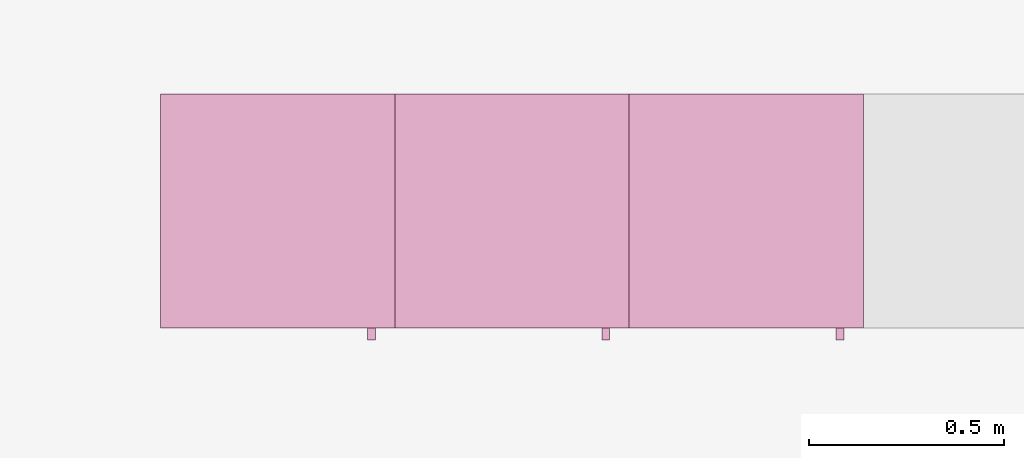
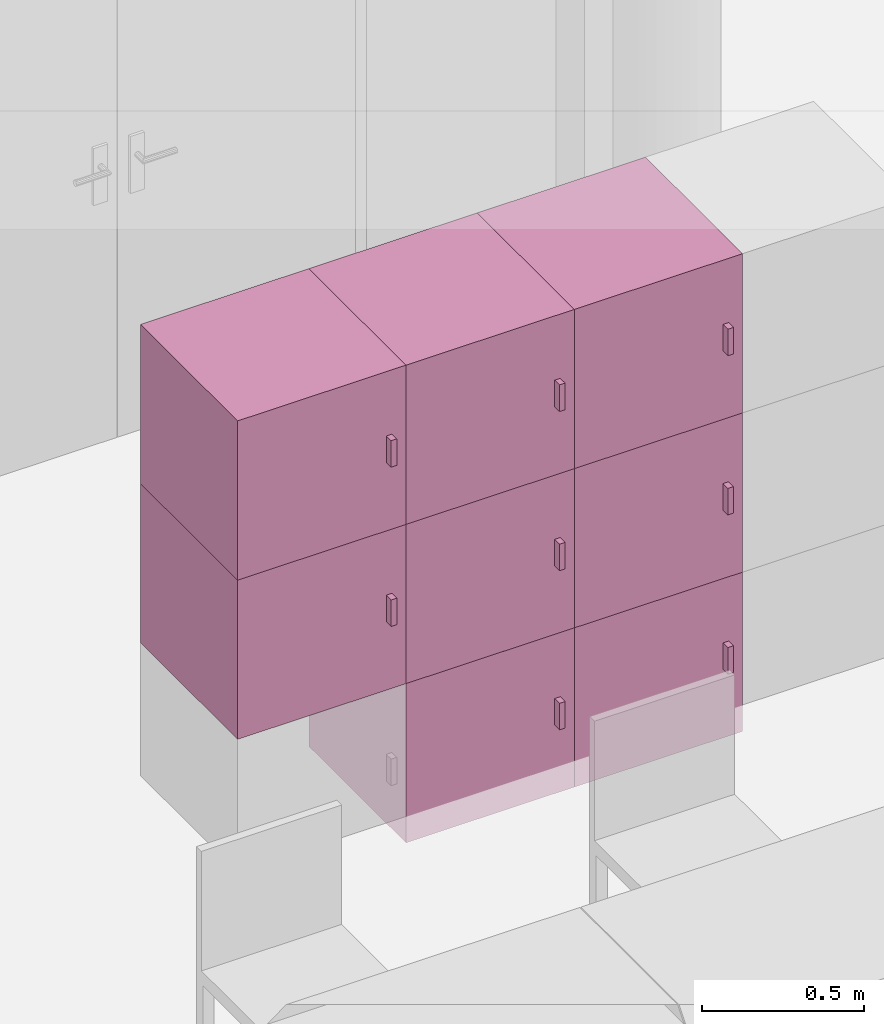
"""IFC4 building model written with IfcOpenShell, lengths in metres."""

from ifc_helpers import new_model, entity, si_unit, converted_unit, derived_unit, frame, origin, place, context, subcontext, project, spatial, faceted_brep, element, save


model = new_model("IFC4")

# Units and contexts
model_context = context("Model", 3, precision=1e-05, world=origin())
body_context = subcontext(model_context, "Body", "Model", "MODEL_VIEW")
ifc_project = project(units=[si_unit("LENGTHUNIT", "METRE"), si_unit("AREAUNIT", "SQUARE_METRE"), si_unit("VOLUMEUNIT", "CUBIC_METRE"), si_unit("MASSUNIT", "GRAM", prefix="KILO"), converted_unit("PLANEANGLEUNIT", "DEGREE", entity("IfcPlaneAngleMeasure", 0.0174532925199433), si_unit("PLANEANGLEUNIT", "RADIAN"), dimensions=[0, 0, 0, 0, 0, 0, 0]), derived_unit("THERMALTRANSMITTANCEUNIT", [(si_unit("POWERUNIT", "WATT"), 1), (si_unit("THERMODYNAMICTEMPERATUREUNIT", "KELVIN"), -1), (si_unit("LENGTHUNIT", "METRE"), -2)]), derived_unit("VOLUMETRICFLOWRATEUNIT", [(si_unit("LENGTHUNIT", "METRE"), 3), (converted_unit("TIMEUNIT", "hour", entity("IfcTimeMeasure", 3600.0), si_unit("TIMEUNIT", "SECOND"), dimensions=[0, 0, 1, 0, 0, 0, 0]), -1), (si_unit("LENGTHUNIT", "METRE"), -1)])], contexts=[model_context])

# Building, storeys
building_placement = place(None, origin())
building = spatial("IfcBuilding", under=ifc_project, at=building_placement, Name="HABITATGE PLURIFAMILIAR", CompositionType="ELEMENT")
storey_1_placement = place(building_placement, frame((0.0, 0.0, 15.28)))
storey_1 = spatial("IfcBuildingStorey", under=building, at=storey_1_placement, Name="PLANTA QUARTA", CompositionType="ELEMENT", Elevation=15.28)
storey_2_placement = place(storey_1_placement, frame((0.0, 0.0, 12.27)))
storey_2 = spatial("IfcBuildingStorey", under=storey_1, at=storey_2_placement, Name="NOU", CompositionType="PARTIAL")

# Furniture
furniture_1_placement = place(storey_2_placement, frame((418.782081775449, 21.5873137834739, -12.37)))
element("IfcFurniture", 1, at=furniture_1_placement, inside=storey_2, Name="Armai 60x60x60_P4", context=body_context, shape_type="Brep", body=[
    faceted_brep([(0.600000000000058, 0.0300000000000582, 0.02), (0.600000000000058, 0.0300000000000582, 0.0), (0.0, 0.0300000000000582, 0.0), (0.0, 0.0300000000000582, 0.02), (0.0, 0.630000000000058, 0.0), (0.0, 0.630000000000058, 0.02), (0.600000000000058, 0.630000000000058, 0.0), (0.600000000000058, 0.630000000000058, 0.02)], [[[0, 1, 2, 3]], [[3, 2, 4, 5]], [[5, 4, 6, 7]], [[7, 6, 1, 0]], [[0, 3, 5, 7]], [[1, 6, 4, 2]]], orient=[[False], [False], [False], [False], [False], [False]]),
    faceted_brep([(0.02, 0.63, 0.58), (0.02, 0.61, 0.58), (0.02, 0.61, 0.02), (0.02, 0.63, 0.02), (0.58, 0.61, 0.02), (0.58, 0.63, 0.02), (0.58, 0.61, 0.58), (0.58, 0.63, 0.58)], [[[0, 1, 2, 3]], [[3, 2, 4, 5]], [[5, 4, 6, 7]], [[7, 6, 1, 0]], [[0, 3, 5, 7]], [[1, 6, 4, 2]]], orient=[[False], [False], [False], [False], [False], [False]]),
    faceted_brep([(0.58, 0.0300000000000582, 0.58), (0.6, 0.0300000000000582, 0.58), (0.6, 0.0300000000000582, 0.02), (0.58, 0.0300000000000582, 0.02), (0.6, 0.630000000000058, 0.02), (0.58, 0.630000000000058, 0.02), (0.6, 0.630000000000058, 0.58), (0.58, 0.630000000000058, 0.58)], [[[0, 1, 2, 3]], [[3, 2, 4, 5]], [[5, 4, 6, 7]], [[7, 6, 1, 0]], [[0, 3, 5, 7]], [[1, 6, 4, 2]]], orient=[[False], [False], [False], [False], [False], [False]]),
    faceted_brep([(0.600000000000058, 0.0500000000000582, 0.58), (0.600000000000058, 0.0300000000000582, 0.58), (0.600000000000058, 0.0300000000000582, 0.02), (0.600000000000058, 0.0500000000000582, 0.02), (0.580000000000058, 0.0300000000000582, 0.02), (0.580000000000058, 0.0500000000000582, 0.02), (0.580000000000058, 0.0300000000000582, 0.58), (0.580000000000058, 0.0500000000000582, 0.58)], [[[0, 1, 2, 3]], [[3, 2, 4, 5]], [[5, 4, 6, 7]], [[7, 6, 1, 0]], [[0, 3, 5, 7]], [[1, 6, 4, 2]]], orient=[[False], [False], [False], [False], [False], [False]]),
    faceted_brep([(0.0, 0.0300000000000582, 0.58), (0.0200000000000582, 0.0300000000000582, 0.58), (0.0200000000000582, 0.0300000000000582, 0.02), (0.0, 0.0300000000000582, 0.02), (0.0200000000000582, 0.630000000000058, 0.02), (0.0, 0.630000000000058, 0.02), (0.0200000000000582, 0.630000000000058, 0.58), (0.0, 0.630000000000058, 0.58)], [[[0, 1, 2, 3]], [[3, 2, 4, 5]], [[5, 4, 6, 7]], [[7, 6, 1, 0]], [[0, 3, 5, 7]], [[1, 6, 4, 2]]], orient=[[False], [False], [False], [False], [False], [False]]),
    faceted_brep([(0.6, 0.03, 0.6), (0.6, 0.03, 0.58), (0.0, 0.03, 0.58), (0.0, 0.03, 0.6), (0.0, 0.63, 0.58), (0.0, 0.63, 0.6), (0.6, 0.63, 0.58), (0.6, 0.63, 0.6)], [[[0, 1, 2, 3]], [[3, 2, 4, 5]], [[5, 4, 6, 7]], [[7, 6, 1, 0]], [[0, 3, 5, 7]], [[1, 6, 4, 2]]], orient=[[False], [False], [False], [False], [False], [False]]),
    faceted_brep([(0.02, 0.05, 0.58), (0.02, 0.03, 0.58), (0.02, 0.03, 0.02), (0.02, 0.05, 0.02), (0.580000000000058, 0.03, 0.02), (0.580000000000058, 0.05, 0.02), (0.580000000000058, 0.03, 0.58), (0.580000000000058, 0.05, 0.58)], [[[0, 1, 2, 3]], [[3, 2, 4, 5]], [[5, 4, 6, 7]], [[7, 6, 1, 0]], [[0, 3, 5, 7]], [[1, 6, 4, 2]]], orient=[[False], [False], [False], [False], [False], [False]]),
    faceted_brep([(0.53, 0.03, 0.358064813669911), (0.53, 0.0, 0.358064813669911), (0.53, 0.0, 0.258064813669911), (0.53, 0.03, 0.258064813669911), (0.55, 0.0, 0.258064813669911), (0.55, 0.03, 0.258064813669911), (0.55, 0.0, 0.358064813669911), (0.55, 0.03, 0.358064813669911)], [[[0, 1, 2, 3]], [[3, 2, 4, 5]], [[5, 4, 6, 7]], [[7, 6, 1, 0]], [[0, 3, 5, 7]], [[1, 6, 4, 2]]], orient=[[False], [False], [False], [False], [False], [False]]),
])
furniture_2_placement = place(storey_2_placement, frame((419.382081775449, 21.5873137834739, -11.77)))
element("IfcFurniture", 2, at=furniture_2_placement, inside=storey_2, Name="Armai 60x60x60_P4", context=body_context, shape_type="Brep", body=[
    faceted_brep([(0.600000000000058, 0.0300000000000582, 0.02), (0.600000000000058, 0.0300000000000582, 0.0), (0.0, 0.0300000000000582, 0.0), (0.0, 0.0300000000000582, 0.02), (0.0, 0.630000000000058, 0.0), (0.0, 0.630000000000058, 0.02), (0.600000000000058, 0.630000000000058, 0.0), (0.600000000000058, 0.630000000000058, 0.02)], [[[0, 1, 2, 3]], [[3, 2, 4, 5]], [[5, 4, 6, 7]], [[7, 6, 1, 0]], [[0, 3, 5, 7]], [[1, 6, 4, 2]]], orient=[[False], [False], [False], [False], [False], [False]]),
    faceted_brep([(0.02, 0.63, 0.58), (0.02, 0.61, 0.58), (0.02, 0.61, 0.02), (0.02, 0.63, 0.02), (0.58, 0.61, 0.02), (0.58, 0.63, 0.02), (0.58, 0.61, 0.58), (0.58, 0.63, 0.58)], [[[0, 1, 2, 3]], [[3, 2, 4, 5]], [[5, 4, 6, 7]], [[7, 6, 1, 0]], [[0, 3, 5, 7]], [[1, 6, 4, 2]]], orient=[[False], [False], [False], [False], [False], [False]]),
    faceted_brep([(0.58, 0.0300000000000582, 0.58), (0.6, 0.0300000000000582, 0.58), (0.6, 0.0300000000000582, 0.02), (0.58, 0.0300000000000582, 0.02), (0.6, 0.630000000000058, 0.02), (0.58, 0.630000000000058, 0.02), (0.6, 0.630000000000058, 0.58), (0.58, 0.630000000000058, 0.58)], [[[0, 1, 2, 3]], [[3, 2, 4, 5]], [[5, 4, 6, 7]], [[7, 6, 1, 0]], [[0, 3, 5, 7]], [[1, 6, 4, 2]]], orient=[[False], [False], [False], [False], [False], [False]]),
    faceted_brep([(0.600000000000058, 0.0500000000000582, 0.58), (0.600000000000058, 0.0300000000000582, 0.58), (0.600000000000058, 0.0300000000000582, 0.02), (0.600000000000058, 0.0500000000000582, 0.02), (0.580000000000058, 0.0300000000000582, 0.02), (0.580000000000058, 0.0500000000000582, 0.02), (0.580000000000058, 0.0300000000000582, 0.58), (0.580000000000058, 0.0500000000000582, 0.58)], [[[0, 1, 2, 3]], [[3, 2, 4, 5]], [[5, 4, 6, 7]], [[7, 6, 1, 0]], [[0, 3, 5, 7]], [[1, 6, 4, 2]]], orient=[[False], [False], [False], [False], [False], [False]]),
    faceted_brep([(0.0, 0.0300000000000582, 0.58), (0.0200000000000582, 0.0300000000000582, 0.58), (0.0200000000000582, 0.0300000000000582, 0.02), (0.0, 0.0300000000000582, 0.02), (0.0200000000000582, 0.630000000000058, 0.02), (0.0, 0.630000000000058, 0.02), (0.0200000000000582, 0.630000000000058, 0.58), (0.0, 0.630000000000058, 0.58)], [[[0, 1, 2, 3]], [[3, 2, 4, 5]], [[5, 4, 6, 7]], [[7, 6, 1, 0]], [[0, 3, 5, 7]], [[1, 6, 4, 2]]], orient=[[False], [False], [False], [False], [False], [False]]),
    faceted_brep([(0.6, 0.03, 0.6), (0.6, 0.03, 0.58), (0.0, 0.03, 0.58), (0.0, 0.03, 0.6), (0.0, 0.63, 0.58), (0.0, 0.63, 0.6), (0.6, 0.63, 0.58), (0.6, 0.63, 0.6)], [[[0, 1, 2, 3]], [[3, 2, 4, 5]], [[5, 4, 6, 7]], [[7, 6, 1, 0]], [[0, 3, 5, 7]], [[1, 6, 4, 2]]], orient=[[False], [False], [False], [False], [False], [False]]),
    faceted_brep([(0.02, 0.05, 0.58), (0.02, 0.03, 0.58), (0.02, 0.03, 0.02), (0.02, 0.05, 0.02), (0.580000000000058, 0.03, 0.02), (0.580000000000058, 0.05, 0.02), (0.580000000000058, 0.03, 0.58), (0.580000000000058, 0.05, 0.58)], [[[0, 1, 2, 3]], [[3, 2, 4, 5]], [[5, 4, 6, 7]], [[7, 6, 1, 0]], [[0, 3, 5, 7]], [[1, 6, 4, 2]]], orient=[[False], [False], [False], [False], [False], [False]]),
    faceted_brep([(0.53, 0.03, 0.358064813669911), (0.53, 0.0, 0.358064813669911), (0.53, 0.0, 0.258064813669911), (0.53, 0.03, 0.258064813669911), (0.55, 0.0, 0.258064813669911), (0.55, 0.03, 0.258064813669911), (0.55, 0.0, 0.358064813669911), (0.55, 0.03, 0.358064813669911)], [[[0, 1, 2, 3]], [[3, 2, 4, 5]], [[5, 4, 6, 7]], [[7, 6, 1, 0]], [[0, 3, 5, 7]], [[1, 6, 4, 2]]], orient=[[False], [False], [False], [False], [False], [False]]),
])
furniture_3_placement = place(storey_2_placement, frame((418.782081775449, 21.5873137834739, -11.77)))
element("IfcFurniture", 3, at=furniture_3_placement, inside=storey_2, Name="Armai 60x60x60_P4", context=body_context, shape_type="Brep", body=[
    faceted_brep([(0.600000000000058, 0.0300000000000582, 0.02), (0.600000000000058, 0.0300000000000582, 0.0), (0.0, 0.0300000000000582, 0.0), (0.0, 0.0300000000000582, 0.02), (0.0, 0.630000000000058, 0.0), (0.0, 0.630000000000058, 0.02), (0.600000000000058, 0.630000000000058, 0.0), (0.600000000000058, 0.630000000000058, 0.02)], [[[0, 1, 2, 3]], [[3, 2, 4, 5]], [[5, 4, 6, 7]], [[7, 6, 1, 0]], [[0, 3, 5, 7]], [[1, 6, 4, 2]]], orient=[[False], [False], [False], [False], [False], [False]]),
    faceted_brep([(0.02, 0.63, 0.58), (0.02, 0.61, 0.58), (0.02, 0.61, 0.02), (0.02, 0.63, 0.02), (0.58, 0.61, 0.02), (0.58, 0.63, 0.02), (0.58, 0.61, 0.58), (0.58, 0.63, 0.58)], [[[0, 1, 2, 3]], [[3, 2, 4, 5]], [[5, 4, 6, 7]], [[7, 6, 1, 0]], [[0, 3, 5, 7]], [[1, 6, 4, 2]]], orient=[[False], [False], [False], [False], [False], [False]]),
    faceted_brep([(0.58, 0.0300000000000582, 0.58), (0.6, 0.0300000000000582, 0.58), (0.6, 0.0300000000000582, 0.02), (0.58, 0.0300000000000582, 0.02), (0.6, 0.630000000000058, 0.02), (0.58, 0.630000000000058, 0.02), (0.6, 0.630000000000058, 0.58), (0.58, 0.630000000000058, 0.58)], [[[0, 1, 2, 3]], [[3, 2, 4, 5]], [[5, 4, 6, 7]], [[7, 6, 1, 0]], [[0, 3, 5, 7]], [[1, 6, 4, 2]]], orient=[[False], [False], [False], [False], [False], [False]]),
    faceted_brep([(0.600000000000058, 0.0500000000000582, 0.58), (0.600000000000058, 0.0300000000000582, 0.58), (0.600000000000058, 0.0300000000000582, 0.02), (0.600000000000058, 0.0500000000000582, 0.02), (0.580000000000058, 0.0300000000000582, 0.02), (0.580000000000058, 0.0500000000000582, 0.02), (0.580000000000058, 0.0300000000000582, 0.58), (0.580000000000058, 0.0500000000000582, 0.58)], [[[0, 1, 2, 3]], [[3, 2, 4, 5]], [[5, 4, 6, 7]], [[7, 6, 1, 0]], [[0, 3, 5, 7]], [[1, 6, 4, 2]]], orient=[[False], [False], [False], [False], [False], [False]]),
    faceted_brep([(0.0, 0.0300000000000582, 0.58), (0.0200000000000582, 0.0300000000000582, 0.58), (0.0200000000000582, 0.0300000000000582, 0.02), (0.0, 0.0300000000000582, 0.02), (0.0200000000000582, 0.630000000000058, 0.02), (0.0, 0.630000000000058, 0.02), (0.0200000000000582, 0.630000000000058, 0.58), (0.0, 0.630000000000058, 0.58)], [[[0, 1, 2, 3]], [[3, 2, 4, 5]], [[5, 4, 6, 7]], [[7, 6, 1, 0]], [[0, 3, 5, 7]], [[1, 6, 4, 2]]], orient=[[False], [False], [False], [False], [False], [False]]),
    faceted_brep([(0.6, 0.03, 0.6), (0.6, 0.03, 0.58), (0.0, 0.03, 0.58), (0.0, 0.03, 0.6), (0.0, 0.63, 0.58), (0.0, 0.63, 0.6), (0.6, 0.63, 0.58), (0.6, 0.63, 0.6)], [[[0, 1, 2, 3]], [[3, 2, 4, 5]], [[5, 4, 6, 7]], [[7, 6, 1, 0]], [[0, 3, 5, 7]], [[1, 6, 4, 2]]], orient=[[False], [False], [False], [False], [False], [False]]),
    faceted_brep([(0.02, 0.05, 0.58), (0.02, 0.03, 0.58), (0.02, 0.03, 0.02), (0.02, 0.05, 0.02), (0.580000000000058, 0.03, 0.02), (0.580000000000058, 0.05, 0.02), (0.580000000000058, 0.03, 0.58), (0.580000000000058, 0.05, 0.58)], [[[0, 1, 2, 3]], [[3, 2, 4, 5]], [[5, 4, 6, 7]], [[7, 6, 1, 0]], [[0, 3, 5, 7]], [[1, 6, 4, 2]]], orient=[[False], [False], [False], [False], [False], [False]]),
    faceted_brep([(0.53, 0.03, 0.358064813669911), (0.53, 0.0, 0.358064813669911), (0.53, 0.0, 0.258064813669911), (0.53, 0.03, 0.258064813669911), (0.55, 0.0, 0.258064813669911), (0.55, 0.03, 0.258064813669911), (0.55, 0.0, 0.358064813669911), (0.55, 0.03, 0.358064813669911)], [[[0, 1, 2, 3]], [[3, 2, 4, 5]], [[5, 4, 6, 7]], [[7, 6, 1, 0]], [[0, 3, 5, 7]], [[1, 6, 4, 2]]], orient=[[False], [False], [False], [False], [False], [False]]),
])
furniture_4_placement = place(storey_2_placement, frame((418.182081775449, 21.5873137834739, -11.77)))
element("IfcFurniture", 4, at=furniture_4_placement, inside=storey_2, Name="Armai 60x60x60_P4", context=body_context, shape_type="Brep", body=[
    faceted_brep([(0.600000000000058, 0.0300000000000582, 0.02), (0.600000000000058, 0.0300000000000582, 0.0), (0.0, 0.0300000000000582, 0.0), (0.0, 0.0300000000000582, 0.02), (0.0, 0.630000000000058, 0.0), (0.0, 0.630000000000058, 0.02), (0.600000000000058, 0.630000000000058, 0.0), (0.600000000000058, 0.630000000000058, 0.02)], [[[0, 1, 2, 3]], [[3, 2, 4, 5]], [[5, 4, 6, 7]], [[7, 6, 1, 0]], [[0, 3, 5, 7]], [[1, 6, 4, 2]]], orient=[[False], [False], [False], [False], [False], [False]]),
    faceted_brep([(0.02, 0.63, 0.58), (0.02, 0.61, 0.58), (0.02, 0.61, 0.02), (0.02, 0.63, 0.02), (0.58, 0.61, 0.02), (0.58, 0.63, 0.02), (0.58, 0.61, 0.58), (0.58, 0.63, 0.58)], [[[0, 1, 2, 3]], [[3, 2, 4, 5]], [[5, 4, 6, 7]], [[7, 6, 1, 0]], [[0, 3, 5, 7]], [[1, 6, 4, 2]]], orient=[[False], [False], [False], [False], [False], [False]]),
    faceted_brep([(0.58, 0.0300000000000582, 0.58), (0.6, 0.0300000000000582, 0.58), (0.6, 0.0300000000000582, 0.02), (0.58, 0.0300000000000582, 0.02), (0.6, 0.630000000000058, 0.02), (0.58, 0.630000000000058, 0.02), (0.6, 0.630000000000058, 0.58), (0.58, 0.630000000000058, 0.58)], [[[0, 1, 2, 3]], [[3, 2, 4, 5]], [[5, 4, 6, 7]], [[7, 6, 1, 0]], [[0, 3, 5, 7]], [[1, 6, 4, 2]]], orient=[[False], [False], [False], [False], [False], [False]]),
    faceted_brep([(0.600000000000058, 0.0500000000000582, 0.58), (0.600000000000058, 0.0300000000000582, 0.58), (0.600000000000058, 0.0300000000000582, 0.02), (0.600000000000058, 0.0500000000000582, 0.02), (0.580000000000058, 0.0300000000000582, 0.02), (0.580000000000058, 0.0500000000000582, 0.02), (0.580000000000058, 0.0300000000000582, 0.58), (0.580000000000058, 0.0500000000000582, 0.58)], [[[0, 1, 2, 3]], [[3, 2, 4, 5]], [[5, 4, 6, 7]], [[7, 6, 1, 0]], [[0, 3, 5, 7]], [[1, 6, 4, 2]]], orient=[[False], [False], [False], [False], [False], [False]]),
    faceted_brep([(0.0, 0.0300000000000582, 0.58), (0.0200000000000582, 0.0300000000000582, 0.58), (0.0200000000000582, 0.0300000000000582, 0.02), (0.0, 0.0300000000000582, 0.02), (0.0200000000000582, 0.630000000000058, 0.02), (0.0, 0.630000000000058, 0.02), (0.0200000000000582, 0.630000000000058, 0.58), (0.0, 0.630000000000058, 0.58)], [[[0, 1, 2, 3]], [[3, 2, 4, 5]], [[5, 4, 6, 7]], [[7, 6, 1, 0]], [[0, 3, 5, 7]], [[1, 6, 4, 2]]], orient=[[False], [False], [False], [False], [False], [False]]),
    faceted_brep([(0.6, 0.03, 0.6), (0.6, 0.03, 0.58), (0.0, 0.03, 0.58), (0.0, 0.03, 0.6), (0.0, 0.63, 0.58), (0.0, 0.63, 0.6), (0.6, 0.63, 0.58), (0.6, 0.63, 0.6)], [[[0, 1, 2, 3]], [[3, 2, 4, 5]], [[5, 4, 6, 7]], [[7, 6, 1, 0]], [[0, 3, 5, 7]], [[1, 6, 4, 2]]], orient=[[False], [False], [False], [False], [False], [False]]),
    faceted_brep([(0.02, 0.05, 0.58), (0.02, 0.03, 0.58), (0.02, 0.03, 0.02), (0.02, 0.05, 0.02), (0.580000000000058, 0.03, 0.02), (0.580000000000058, 0.05, 0.02), (0.580000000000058, 0.03, 0.58), (0.580000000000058, 0.05, 0.58)], [[[0, 1, 2, 3]], [[3, 2, 4, 5]], [[5, 4, 6, 7]], [[7, 6, 1, 0]], [[0, 3, 5, 7]], [[1, 6, 4, 2]]], orient=[[False], [False], [False], [False], [False], [False]]),
    faceted_brep([(0.53, 0.03, 0.358064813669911), (0.53, 0.0, 0.358064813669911), (0.53, 0.0, 0.258064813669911), (0.53, 0.03, 0.258064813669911), (0.55, 0.0, 0.258064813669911), (0.55, 0.03, 0.258064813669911), (0.55, 0.0, 0.358064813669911), (0.55, 0.03, 0.358064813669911)], [[[0, 1, 2, 3]], [[3, 2, 4, 5]], [[5, 4, 6, 7]], [[7, 6, 1, 0]], [[0, 3, 5, 7]], [[1, 6, 4, 2]]], orient=[[False], [False], [False], [False], [False], [False]]),
])
furniture_5_placement = place(storey_2_placement, frame((419.382081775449, 21.5873137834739, -11.17)))
element("IfcFurniture", 5, at=furniture_5_placement, inside=storey_2, Name="Armai 60x60x60_P4", context=body_context, shape_type="Brep", body=[
    faceted_brep([(0.600000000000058, 0.0300000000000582, 0.02), (0.600000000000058, 0.0300000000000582, 0.0), (0.0, 0.0300000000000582, 0.0), (0.0, 0.0300000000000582, 0.02), (0.0, 0.630000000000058, 0.0), (0.0, 0.630000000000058, 0.02), (0.600000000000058, 0.630000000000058, 0.0), (0.600000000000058, 0.630000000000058, 0.02)], [[[0, 1, 2, 3]], [[3, 2, 4, 5]], [[5, 4, 6, 7]], [[7, 6, 1, 0]], [[0, 3, 5, 7]], [[1, 6, 4, 2]]], orient=[[False], [False], [False], [False], [False], [False]]),
    faceted_brep([(0.02, 0.63, 0.58), (0.02, 0.61, 0.58), (0.02, 0.61, 0.02), (0.02, 0.63, 0.02), (0.58, 0.61, 0.02), (0.58, 0.63, 0.02), (0.58, 0.61, 0.58), (0.58, 0.63, 0.58)], [[[0, 1, 2, 3]], [[3, 2, 4, 5]], [[5, 4, 6, 7]], [[7, 6, 1, 0]], [[0, 3, 5, 7]], [[1, 6, 4, 2]]], orient=[[False], [False], [False], [False], [False], [False]]),
    faceted_brep([(0.58, 0.0300000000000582, 0.58), (0.6, 0.0300000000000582, 0.58), (0.6, 0.0300000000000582, 0.02), (0.58, 0.0300000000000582, 0.02), (0.6, 0.630000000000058, 0.02), (0.58, 0.630000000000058, 0.02), (0.6, 0.630000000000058, 0.58), (0.58, 0.630000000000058, 0.58)], [[[0, 1, 2, 3]], [[3, 2, 4, 5]], [[5, 4, 6, 7]], [[7, 6, 1, 0]], [[0, 3, 5, 7]], [[1, 6, 4, 2]]], orient=[[False], [False], [False], [False], [False], [False]]),
    faceted_brep([(0.600000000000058, 0.0500000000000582, 0.58), (0.600000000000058, 0.0300000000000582, 0.58), (0.600000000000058, 0.0300000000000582, 0.02), (0.600000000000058, 0.0500000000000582, 0.02), (0.580000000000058, 0.0300000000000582, 0.02), (0.580000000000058, 0.0500000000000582, 0.02), (0.580000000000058, 0.0300000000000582, 0.58), (0.580000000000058, 0.0500000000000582, 0.58)], [[[0, 1, 2, 3]], [[3, 2, 4, 5]], [[5, 4, 6, 7]], [[7, 6, 1, 0]], [[0, 3, 5, 7]], [[1, 6, 4, 2]]], orient=[[False], [False], [False], [False], [False], [False]]),
    faceted_brep([(0.0, 0.0300000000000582, 0.58), (0.0200000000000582, 0.0300000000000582, 0.58), (0.0200000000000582, 0.0300000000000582, 0.02), (0.0, 0.0300000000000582, 0.02), (0.0200000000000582, 0.630000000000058, 0.02), (0.0, 0.630000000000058, 0.02), (0.0200000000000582, 0.630000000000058, 0.58), (0.0, 0.630000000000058, 0.58)], [[[0, 1, 2, 3]], [[3, 2, 4, 5]], [[5, 4, 6, 7]], [[7, 6, 1, 0]], [[0, 3, 5, 7]], [[1, 6, 4, 2]]], orient=[[False], [False], [False], [False], [False], [False]]),
    faceted_brep([(0.6, 0.03, 0.6), (0.6, 0.03, 0.58), (0.0, 0.03, 0.58), (0.0, 0.03, 0.6), (0.0, 0.63, 0.58), (0.0, 0.63, 0.6), (0.6, 0.63, 0.58), (0.6, 0.63, 0.6)], [[[0, 1, 2, 3]], [[3, 2, 4, 5]], [[5, 4, 6, 7]], [[7, 6, 1, 0]], [[0, 3, 5, 7]], [[1, 6, 4, 2]]], orient=[[False], [False], [False], [False], [False], [False]]),
    faceted_brep([(0.02, 0.05, 0.58), (0.02, 0.03, 0.58), (0.02, 0.03, 0.02), (0.02, 0.05, 0.02), (0.580000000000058, 0.03, 0.02), (0.580000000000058, 0.05, 0.02), (0.580000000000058, 0.03, 0.58), (0.580000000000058, 0.05, 0.58)], [[[0, 1, 2, 3]], [[3, 2, 4, 5]], [[5, 4, 6, 7]], [[7, 6, 1, 0]], [[0, 3, 5, 7]], [[1, 6, 4, 2]]], orient=[[False], [False], [False], [False], [False], [False]]),
    faceted_brep([(0.53, 0.03, 0.358064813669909), (0.53, 0.0, 0.358064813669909), (0.53, 0.0, 0.258064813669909), (0.53, 0.03, 0.258064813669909), (0.55, 0.0, 0.258064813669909), (0.55, 0.03, 0.258064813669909), (0.55, 0.0, 0.358064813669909), (0.55, 0.03, 0.358064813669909)], [[[0, 1, 2, 3]], [[3, 2, 4, 5]], [[5, 4, 6, 7]], [[7, 6, 1, 0]], [[0, 3, 5, 7]], [[1, 6, 4, 2]]], orient=[[False], [False], [False], [False], [False], [False]]),
])
furniture_6_placement = place(storey_2_placement, frame((418.782081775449, 21.5873137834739, -11.17)))
element("IfcFurniture", 6, at=furniture_6_placement, inside=storey_2, Name="Armai 60x60x60_P4", context=body_context, shape_type="Brep", body=[
    faceted_brep([(0.600000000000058, 0.0300000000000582, 0.02), (0.600000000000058, 0.0300000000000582, 0.0), (0.0, 0.0300000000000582, 0.0), (0.0, 0.0300000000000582, 0.02), (0.0, 0.630000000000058, 0.0), (0.0, 0.630000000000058, 0.02), (0.600000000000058, 0.630000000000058, 0.0), (0.600000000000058, 0.630000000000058, 0.02)], [[[0, 1, 2, 3]], [[3, 2, 4, 5]], [[5, 4, 6, 7]], [[7, 6, 1, 0]], [[0, 3, 5, 7]], [[1, 6, 4, 2]]], orient=[[False], [False], [False], [False], [False], [False]]),
    faceted_brep([(0.02, 0.63, 0.58), (0.02, 0.61, 0.58), (0.02, 0.61, 0.02), (0.02, 0.63, 0.02), (0.58, 0.61, 0.02), (0.58, 0.63, 0.02), (0.58, 0.61, 0.58), (0.58, 0.63, 0.58)], [[[0, 1, 2, 3]], [[3, 2, 4, 5]], [[5, 4, 6, 7]], [[7, 6, 1, 0]], [[0, 3, 5, 7]], [[1, 6, 4, 2]]], orient=[[False], [False], [False], [False], [False], [False]]),
    faceted_brep([(0.58, 0.0300000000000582, 0.58), (0.6, 0.0300000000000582, 0.58), (0.6, 0.0300000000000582, 0.02), (0.58, 0.0300000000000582, 0.02), (0.6, 0.630000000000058, 0.02), (0.58, 0.630000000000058, 0.02), (0.6, 0.630000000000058, 0.58), (0.58, 0.630000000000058, 0.58)], [[[0, 1, 2, 3]], [[3, 2, 4, 5]], [[5, 4, 6, 7]], [[7, 6, 1, 0]], [[0, 3, 5, 7]], [[1, 6, 4, 2]]], orient=[[False], [False], [False], [False], [False], [False]]),
    faceted_brep([(0.600000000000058, 0.0500000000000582, 0.58), (0.600000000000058, 0.0300000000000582, 0.58), (0.600000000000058, 0.0300000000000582, 0.02), (0.600000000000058, 0.0500000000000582, 0.02), (0.580000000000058, 0.0300000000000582, 0.02), (0.580000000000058, 0.0500000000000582, 0.02), (0.580000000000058, 0.0300000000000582, 0.58), (0.580000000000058, 0.0500000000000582, 0.58)], [[[0, 1, 2, 3]], [[3, 2, 4, 5]], [[5, 4, 6, 7]], [[7, 6, 1, 0]], [[0, 3, 5, 7]], [[1, 6, 4, 2]]], orient=[[False], [False], [False], [False], [False], [False]]),
    faceted_brep([(0.0, 0.0300000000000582, 0.58), (0.0200000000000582, 0.0300000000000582, 0.58), (0.0200000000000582, 0.0300000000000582, 0.02), (0.0, 0.0300000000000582, 0.02), (0.0200000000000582, 0.630000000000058, 0.02), (0.0, 0.630000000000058, 0.02), (0.0200000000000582, 0.630000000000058, 0.58), (0.0, 0.630000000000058, 0.58)], [[[0, 1, 2, 3]], [[3, 2, 4, 5]], [[5, 4, 6, 7]], [[7, 6, 1, 0]], [[0, 3, 5, 7]], [[1, 6, 4, 2]]], orient=[[False], [False], [False], [False], [False], [False]]),
    faceted_brep([(0.6, 0.03, 0.6), (0.6, 0.03, 0.58), (0.0, 0.03, 0.58), (0.0, 0.03, 0.6), (0.0, 0.63, 0.58), (0.0, 0.63, 0.6), (0.6, 0.63, 0.58), (0.6, 0.63, 0.6)], [[[0, 1, 2, 3]], [[3, 2, 4, 5]], [[5, 4, 6, 7]], [[7, 6, 1, 0]], [[0, 3, 5, 7]], [[1, 6, 4, 2]]], orient=[[False], [False], [False], [False], [False], [False]]),
    faceted_brep([(0.02, 0.05, 0.58), (0.02, 0.03, 0.58), (0.02, 0.03, 0.02), (0.02, 0.05, 0.02), (0.580000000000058, 0.03, 0.02), (0.580000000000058, 0.05, 0.02), (0.580000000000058, 0.03, 0.58), (0.580000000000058, 0.05, 0.58)], [[[0, 1, 2, 3]], [[3, 2, 4, 5]], [[5, 4, 6, 7]], [[7, 6, 1, 0]], [[0, 3, 5, 7]], [[1, 6, 4, 2]]], orient=[[False], [False], [False], [False], [False], [False]]),
    faceted_brep([(0.53, 0.03, 0.358064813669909), (0.53, 0.0, 0.358064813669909), (0.53, 0.0, 0.258064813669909), (0.53, 0.03, 0.258064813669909), (0.55, 0.0, 0.258064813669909), (0.55, 0.03, 0.258064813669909), (0.55, 0.0, 0.358064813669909), (0.55, 0.03, 0.358064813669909)], [[[0, 1, 2, 3]], [[3, 2, 4, 5]], [[5, 4, 6, 7]], [[7, 6, 1, 0]], [[0, 3, 5, 7]], [[1, 6, 4, 2]]], orient=[[False], [False], [False], [False], [False], [False]]),
])
furniture_7_placement = place(storey_2_placement, frame((418.182081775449, 21.5873137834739, -11.17)))
element("IfcFurniture", 7, at=furniture_7_placement, inside=storey_2, Name="Armai 60x60x60_P4", context=body_context, shape_type="Brep", body=[
    faceted_brep([(0.600000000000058, 0.0300000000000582, 0.02), (0.600000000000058, 0.0300000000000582, 0.0), (0.0, 0.0300000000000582, 0.0), (0.0, 0.0300000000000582, 0.02), (0.0, 0.630000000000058, 0.0), (0.0, 0.630000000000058, 0.02), (0.600000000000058, 0.630000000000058, 0.0), (0.600000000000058, 0.630000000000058, 0.02)], [[[0, 1, 2, 3]], [[3, 2, 4, 5]], [[5, 4, 6, 7]], [[7, 6, 1, 0]], [[0, 3, 5, 7]], [[1, 6, 4, 2]]], orient=[[False], [False], [False], [False], [False], [False]]),
    faceted_brep([(0.02, 0.63, 0.58), (0.02, 0.61, 0.58), (0.02, 0.61, 0.02), (0.02, 0.63, 0.02), (0.58, 0.61, 0.02), (0.58, 0.63, 0.02), (0.58, 0.61, 0.58), (0.58, 0.63, 0.58)], [[[0, 1, 2, 3]], [[3, 2, 4, 5]], [[5, 4, 6, 7]], [[7, 6, 1, 0]], [[0, 3, 5, 7]], [[1, 6, 4, 2]]], orient=[[False], [False], [False], [False], [False], [False]]),
    faceted_brep([(0.58, 0.0300000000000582, 0.58), (0.6, 0.0300000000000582, 0.58), (0.6, 0.0300000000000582, 0.02), (0.58, 0.0300000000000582, 0.02), (0.6, 0.630000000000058, 0.02), (0.58, 0.630000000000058, 0.02), (0.6, 0.630000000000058, 0.58), (0.58, 0.630000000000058, 0.58)], [[[0, 1, 2, 3]], [[3, 2, 4, 5]], [[5, 4, 6, 7]], [[7, 6, 1, 0]], [[0, 3, 5, 7]], [[1, 6, 4, 2]]], orient=[[False], [False], [False], [False], [False], [False]]),
    faceted_brep([(0.600000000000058, 0.0500000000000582, 0.58), (0.600000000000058, 0.0300000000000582, 0.58), (0.600000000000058, 0.0300000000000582, 0.02), (0.600000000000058, 0.0500000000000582, 0.02), (0.580000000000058, 0.0300000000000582, 0.02), (0.580000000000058, 0.0500000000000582, 0.02), (0.580000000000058, 0.0300000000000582, 0.58), (0.580000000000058, 0.0500000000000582, 0.58)], [[[0, 1, 2, 3]], [[3, 2, 4, 5]], [[5, 4, 6, 7]], [[7, 6, 1, 0]], [[0, 3, 5, 7]], [[1, 6, 4, 2]]], orient=[[False], [False], [False], [False], [False], [False]]),
    faceted_brep([(0.0, 0.0300000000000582, 0.58), (0.0200000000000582, 0.0300000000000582, 0.58), (0.0200000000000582, 0.0300000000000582, 0.02), (0.0, 0.0300000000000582, 0.02), (0.0200000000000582, 0.630000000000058, 0.02), (0.0, 0.630000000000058, 0.02), (0.0200000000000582, 0.630000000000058, 0.58), (0.0, 0.630000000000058, 0.58)], [[[0, 1, 2, 3]], [[3, 2, 4, 5]], [[5, 4, 6, 7]], [[7, 6, 1, 0]], [[0, 3, 5, 7]], [[1, 6, 4, 2]]], orient=[[False], [False], [False], [False], [False], [False]]),
    faceted_brep([(0.6, 0.03, 0.6), (0.6, 0.03, 0.58), (0.0, 0.03, 0.58), (0.0, 0.03, 0.6), (0.0, 0.63, 0.58), (0.0, 0.63, 0.6), (0.6, 0.63, 0.58), (0.6, 0.63, 0.6)], [[[0, 1, 2, 3]], [[3, 2, 4, 5]], [[5, 4, 6, 7]], [[7, 6, 1, 0]], [[0, 3, 5, 7]], [[1, 6, 4, 2]]], orient=[[False], [False], [False], [False], [False], [False]]),
    faceted_brep([(0.02, 0.05, 0.58), (0.02, 0.03, 0.58), (0.02, 0.03, 0.02), (0.02, 0.05, 0.02), (0.580000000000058, 0.03, 0.02), (0.580000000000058, 0.05, 0.02), (0.580000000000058, 0.03, 0.58), (0.580000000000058, 0.05, 0.58)], [[[0, 1, 2, 3]], [[3, 2, 4, 5]], [[5, 4, 6, 7]], [[7, 6, 1, 0]], [[0, 3, 5, 7]], [[1, 6, 4, 2]]], orient=[[False], [False], [False], [False], [False], [False]]),
    faceted_brep([(0.53, 0.03, 0.358064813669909), (0.53, 0.0, 0.358064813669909), (0.53, 0.0, 0.258064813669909), (0.53, 0.03, 0.258064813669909), (0.55, 0.0, 0.258064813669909), (0.55, 0.03, 0.258064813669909), (0.55, 0.0, 0.358064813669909), (0.55, 0.03, 0.358064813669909)], [[[0, 1, 2, 3]], [[3, 2, 4, 5]], [[5, 4, 6, 7]], [[7, 6, 1, 0]], [[0, 3, 5, 7]], [[1, 6, 4, 2]]], orient=[[False], [False], [False], [False], [False], [False]]),
])
furniture_8_placement = place(storey_2_placement, frame((419.382081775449, 21.5873137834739, -12.37)))
element("IfcFurniture", 8, at=furniture_8_placement, inside=storey_2, Name="Armai 60x60x60_P4", context=body_context, shape_type="Brep", body=[
    faceted_brep([(0.600000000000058, 0.0300000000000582, 0.02), (0.600000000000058, 0.0300000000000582, 0.0), (0.0, 0.0300000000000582, 0.0), (0.0, 0.0300000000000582, 0.02), (0.0, 0.630000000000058, 0.0), (0.0, 0.630000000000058, 0.02), (0.600000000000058, 0.630000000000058, 0.0), (0.600000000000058, 0.630000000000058, 0.02)], [[[0, 1, 2, 3]], [[3, 2, 4, 5]], [[5, 4, 6, 7]], [[7, 6, 1, 0]], [[0, 3, 5, 7]], [[1, 6, 4, 2]]], orient=[[False], [False], [False], [False], [False], [False]]),
    faceted_brep([(0.02, 0.63, 0.58), (0.02, 0.61, 0.58), (0.02, 0.61, 0.02), (0.02, 0.63, 0.02), (0.58, 0.61, 0.02), (0.58, 0.63, 0.02), (0.58, 0.61, 0.58), (0.58, 0.63, 0.58)], [[[0, 1, 2, 3]], [[3, 2, 4, 5]], [[5, 4, 6, 7]], [[7, 6, 1, 0]], [[0, 3, 5, 7]], [[1, 6, 4, 2]]], orient=[[False], [False], [False], [False], [False], [False]]),
    faceted_brep([(0.58, 0.0300000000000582, 0.58), (0.6, 0.0300000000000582, 0.58), (0.6, 0.0300000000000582, 0.02), (0.58, 0.0300000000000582, 0.02), (0.6, 0.630000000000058, 0.02), (0.58, 0.630000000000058, 0.02), (0.6, 0.630000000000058, 0.58), (0.58, 0.630000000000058, 0.58)], [[[0, 1, 2, 3]], [[3, 2, 4, 5]], [[5, 4, 6, 7]], [[7, 6, 1, 0]], [[0, 3, 5, 7]], [[1, 6, 4, 2]]], orient=[[False], [False], [False], [False], [False], [False]]),
    faceted_brep([(0.600000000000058, 0.0500000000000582, 0.58), (0.600000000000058, 0.0300000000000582, 0.58), (0.600000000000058, 0.0300000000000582, 0.02), (0.600000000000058, 0.0500000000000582, 0.02), (0.580000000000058, 0.0300000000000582, 0.02), (0.580000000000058, 0.0500000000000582, 0.02), (0.580000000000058, 0.0300000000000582, 0.58), (0.580000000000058, 0.0500000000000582, 0.58)], [[[0, 1, 2, 3]], [[3, 2, 4, 5]], [[5, 4, 6, 7]], [[7, 6, 1, 0]], [[0, 3, 5, 7]], [[1, 6, 4, 2]]], orient=[[False], [False], [False], [False], [False], [False]]),
    faceted_brep([(0.0, 0.0300000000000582, 0.58), (0.0200000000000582, 0.0300000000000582, 0.58), (0.0200000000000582, 0.0300000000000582, 0.02), (0.0, 0.0300000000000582, 0.02), (0.0200000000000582, 0.630000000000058, 0.02), (0.0, 0.630000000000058, 0.02), (0.0200000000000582, 0.630000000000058, 0.58), (0.0, 0.630000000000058, 0.58)], [[[0, 1, 2, 3]], [[3, 2, 4, 5]], [[5, 4, 6, 7]], [[7, 6, 1, 0]], [[0, 3, 5, 7]], [[1, 6, 4, 2]]], orient=[[False], [False], [False], [False], [False], [False]]),
    faceted_brep([(0.6, 0.03, 0.6), (0.6, 0.03, 0.58), (0.0, 0.03, 0.58), (0.0, 0.03, 0.6), (0.0, 0.63, 0.58), (0.0, 0.63, 0.6), (0.6, 0.63, 0.58), (0.6, 0.63, 0.6)], [[[0, 1, 2, 3]], [[3, 2, 4, 5]], [[5, 4, 6, 7]], [[7, 6, 1, 0]], [[0, 3, 5, 7]], [[1, 6, 4, 2]]], orient=[[False], [False], [False], [False], [False], [False]]),
    faceted_brep([(0.02, 0.05, 0.58), (0.02, 0.03, 0.58), (0.02, 0.03, 0.02), (0.02, 0.05, 0.02), (0.580000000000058, 0.03, 0.02), (0.580000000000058, 0.05, 0.02), (0.580000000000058, 0.03, 0.58), (0.580000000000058, 0.05, 0.58)], [[[0, 1, 2, 3]], [[3, 2, 4, 5]], [[5, 4, 6, 7]], [[7, 6, 1, 0]], [[0, 3, 5, 7]], [[1, 6, 4, 2]]], orient=[[False], [False], [False], [False], [False], [False]]),
    faceted_brep([(0.53, 0.03, 0.358064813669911), (0.53, 0.0, 0.358064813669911), (0.53, 0.0, 0.258064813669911), (0.53, 0.03, 0.258064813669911), (0.55, 0.0, 0.258064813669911), (0.55, 0.03, 0.258064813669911), (0.55, 0.0, 0.358064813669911), (0.55, 0.03, 0.358064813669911)], [[[0, 1, 2, 3]], [[3, 2, 4, 5]], [[5, 4, 6, 7]], [[7, 6, 1, 0]], [[0, 3, 5, 7]], [[1, 6, 4, 2]]], orient=[[False], [False], [False], [False], [False], [False]]),
])

save(model, "model.ifc")
